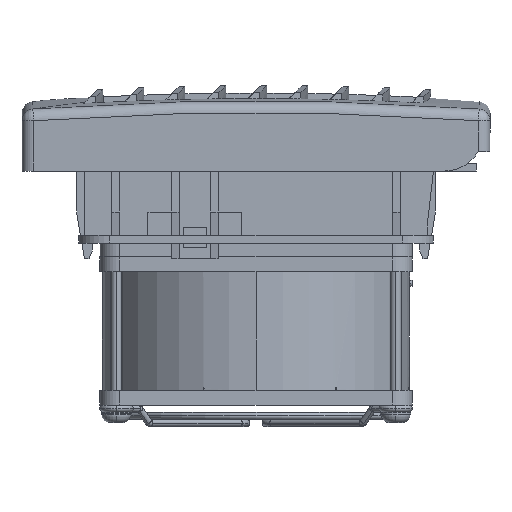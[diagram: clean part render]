
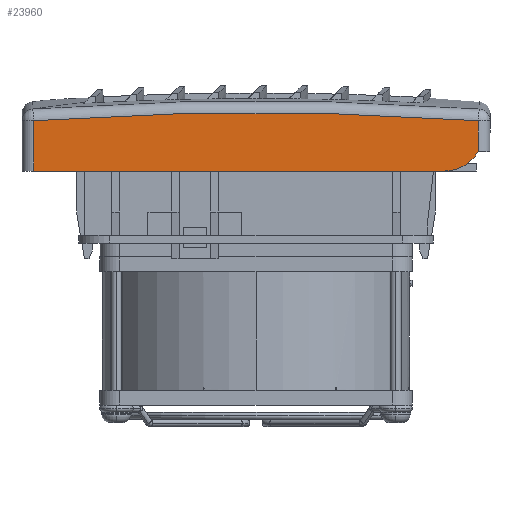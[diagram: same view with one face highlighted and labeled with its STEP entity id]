
A CAD part, left-side view. The second image highlights one B-rep face of the part: STEP entity #23960.
In plain terms, the highlighted planar face has unit normal (-1, 0, 0).
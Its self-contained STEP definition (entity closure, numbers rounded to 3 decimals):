
#1971 = CARTESIAN_POINT ( 'NONE',  ( -14., -46., -780. ) ) ;
#3266 = EDGE_CURVE ( 'NONE', #24676, #42000, #12902, .T. ) ;
#4479 = AXIS2_PLACEMENT_3D ( 'NONE', #12645, #12502, #12341 ) ;
#5364 = AXIS2_PLACEMENT_3D ( 'NONE', #8743, #32349, #12122 ) ;
#5372 = DIRECTION ( 'NONE',  ( 0., 1., 0. ) ) ;
#5823 = EDGE_LOOP ( 'NONE', ( #36620, #42952, #10195, #12836, #22789 ) ) ;
#6381 = CIRCLE ( 'NONE', #23373, 794.959 ) ;
#6445 = CARTESIAN_POINT ( 'NONE',  ( -14., -103., 20. ) ) ;
#6612 = CARTESIAN_POINT ( 'NONE',  ( -14., -103., 5. ) ) ;
#7119 = VECTOR ( 'NONE', #18609, 1000. ) ;
#7294 = VECTOR ( 'NONE', #20516, 1000. ) ;
#8743 = CARTESIAN_POINT ( 'NONE',  ( -14., 14., 20. ) ) ;
#9277 = VERTEX_POINT ( 'NONE', #9678 ) ;
#9678 = CARTESIAN_POINT ( 'NONE',  ( -14., 11., 12.913 ) ) ;
#10195 = ORIENTED_EDGE ( 'NONE', *, *, #24126, .T. ) ;
#10768 = VERTEX_POINT ( 'NONE', #20019 ) ;
#12122 = DIRECTION ( 'NONE',  ( 0., 1., 0. ) ) ;
#12341 = DIRECTION ( 'NONE',  ( 0., 1., 0. ) ) ;
#12502 = DIRECTION ( 'NONE',  ( -1., 0., 0. ) ) ;
#12645 = CARTESIAN_POINT ( 'NONE',  ( -14., -94.34, 10. ) ) ;
#12836 = ORIENTED_EDGE ( 'NONE', *, *, #39977, .T. ) ;
#12902 = CIRCLE ( 'NONE', #4479, 10. ) ;
#17264 = LINE ( 'NONE', #23633, #7294 ) ;
#17344 = EDGE_CURVE ( 'NONE', #10768, #24676, #43066, .T. ) ;
#18609 = DIRECTION ( 'NONE',  ( 0., -1., 0. ) ) ;
#20019 = CARTESIAN_POINT ( 'NONE',  ( -14., 11., 0. ) ) ;
#20516 = DIRECTION ( 'NONE',  ( 0., 0., -1. ) ) ;
#21613 = LINE ( 'NONE', #6445, #29576 ) ;
#22789 = ORIENTED_EDGE ( 'NONE', *, *, #29511, .T. ) ;
#23373 = AXIS2_PLACEMENT_3D ( 'NONE', #1971, #25464, #5372 ) ;
#23633 = CARTESIAN_POINT ( 'NONE',  ( -14., 11., 20. ) ) ;
#23960 = ADVANCED_FACE ( 'NONE', ( #30112 ), #35584, .F. ) ;
#24126 = EDGE_CURVE ( 'NONE', #42000, #39328, #21613, .T. ) ;
#24676 = VERTEX_POINT ( 'NONE', #30195 ) ;
#25464 = DIRECTION ( 'NONE',  ( -1., 0., 0. ) ) ;
#29511 = EDGE_CURVE ( 'NONE', #9277, #10768, #17264, .T. ) ;
#29576 = VECTOR ( 'NONE', #40233, 1000. ) ;
#30112 = FACE_OUTER_BOUND ( 'NONE', #5823, .T. ) ;
#30195 = CARTESIAN_POINT ( 'NONE',  ( -14., -94.34, 0. ) ) ;
#32349 = DIRECTION ( 'NONE',  ( 1., 0., 0. ) ) ;
#35445 = CARTESIAN_POINT ( 'NONE',  ( -14., 14., 0. ) ) ;
#35584 = PLANE ( 'NONE',  #5364 ) ;
#36620 = ORIENTED_EDGE ( 'NONE', *, *, #17344, .T. ) ;
#39328 = VERTEX_POINT ( 'NONE', #41487 ) ;
#39977 = EDGE_CURVE ( 'NONE', #39328, #9277, #6381, .T. ) ;
#40233 = DIRECTION ( 'NONE',  ( 0., 0., 1. ) ) ;
#41487 = CARTESIAN_POINT ( 'NONE',  ( -14., -103., 12.913 ) ) ;
#42000 = VERTEX_POINT ( 'NONE', #6612 ) ;
#42952 = ORIENTED_EDGE ( 'NONE', *, *, #3266, .T. ) ;
#43066 = LINE ( 'NONE', #35445, #7119 ) ;
